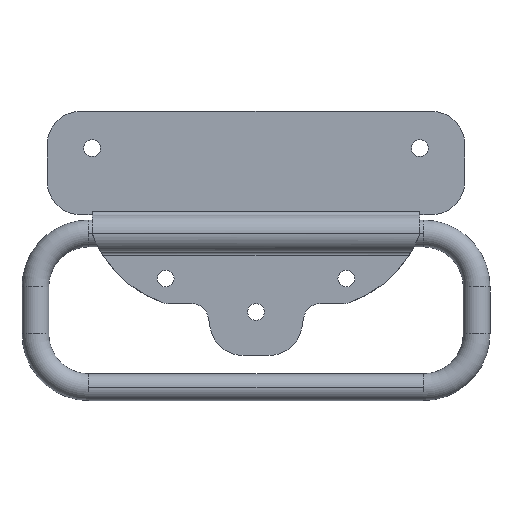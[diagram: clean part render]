
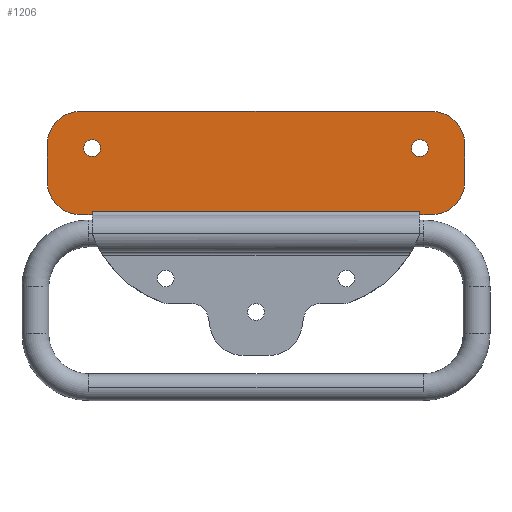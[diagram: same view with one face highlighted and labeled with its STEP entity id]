
A CAD part, left-side view. The second image highlights one B-rep face of the part: STEP entity #1206.
In plain terms, the highlighted planar face has unit normal (-1, 0, 0).
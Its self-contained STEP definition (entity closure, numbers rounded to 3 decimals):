
#874=CARTESIAN_POINT('',(0.,-100.5,0.));
#875=VERTEX_POINT('',#874);
#884=CARTESIAN_POINT('',(0.,-95.5,0.));
#885=VERTEX_POINT('',#884);
#886=CARTESIAN_POINT('',(0.,-98.0,0.));
#887=DIRECTION('',(1.0,0.0,0.0));
#888=DIRECTION('',(0.0,-1.0,0.0));
#889=AXIS2_PLACEMENT_3D('',#886,#887,#888);
#890=CIRCLE('',#889,2.5);
#891=EDGE_CURVE('',#885,#875,#890,.T.);
#916=CARTESIAN_POINT('',(0.0,-2.5,0.0));
#917=VERTEX_POINT('',#916);
#926=CARTESIAN_POINT('',(0.,2.5,0.));
#927=VERTEX_POINT('',#926);
#928=CARTESIAN_POINT('',(0.0,0.0,0.0));
#929=DIRECTION('',(1.0,0.0,0.0));
#930=DIRECTION('',(0.0,-1.0,0.0));
#931=AXIS2_PLACEMENT_3D('',#928,#929,#930);
#932=CIRCLE('',#931,2.5);
#933=EDGE_CURVE('',#927,#917,#932,.T.);
#1079=CARTESIAN_POINT('',(0.,-112.0,11.));
#1080=DIRECTION('',(-1.0,0.0,0.0));
#1081=DIRECTION('',(0.0,0.0,1.0));
#1082=AXIS2_PLACEMENT_3D('',#1079,#1080,#1081);
#1083=PLANE('',#1082);
#1084=CARTESIAN_POINT('',(0.,13.5,-9.9));
#1085=VERTEX_POINT('',#1084);
#1086=CARTESIAN_POINT('',(0.0,3.5,-19.9));
#1087=VERTEX_POINT('',#1086);
#1088=CARTESIAN_POINT('',(0.0,3.5,-9.9));
#1089=DIRECTION('',(-1.0,0.0,0.0));
#1090=DIRECTION('',(0.0,-1.0,0.0));
#1091=AXIS2_PLACEMENT_3D('',#1088,#1089,#1090);
#1092=CIRCLE('',#1091,10.0);
#1093=EDGE_CURVE('',#1085,#1087,#1092,.T.);
#1094=ORIENTED_EDGE('',*,*,#1093,.T.);
#1095=CARTESIAN_POINT('',(0.0,0.,-19.9));
#1096=VERTEX_POINT('',#1095);
#1097=CARTESIAN_POINT('',(0.0,0.,-19.9));
#1098=DIRECTION('',(0.0,1.0,0.0));
#1099=VECTOR('',#1098,3.5);
#1100=LINE('',#1097,#1099);
#1101=EDGE_CURVE('',#1096,#1087,#1100,.T.);
#1102=ORIENTED_EDGE('',*,*,#1101,.F.);
#1103=CARTESIAN_POINT('',(0.0,0.,-19.0));
#1104=VERTEX_POINT('',#1103);
#1105=CARTESIAN_POINT('',(0.0,0.,-19.0));
#1106=DIRECTION('',(0.0,0.0,-1.0));
#1107=VECTOR('',#1106,0.9);
#1108=LINE('',#1105,#1107);
#1109=EDGE_CURVE('',#1104,#1096,#1108,.T.);
#1110=ORIENTED_EDGE('',*,*,#1109,.F.);
#1111=CARTESIAN_POINT('',(0.,-98.0,-19.));
#1112=VERTEX_POINT('',#1111);
#1113=CARTESIAN_POINT('',(0.,-98.0,-19.));
#1114=DIRECTION('',(0.0,1.0,0.0));
#1115=VECTOR('',#1114,98.0);
#1116=LINE('',#1113,#1115);
#1117=EDGE_CURVE('',#1112,#1104,#1116,.T.);
#1118=ORIENTED_EDGE('',*,*,#1117,.F.);
#1119=CARTESIAN_POINT('',(0.,-98.0,-19.9));
#1120=VERTEX_POINT('',#1119);
#1121=CARTESIAN_POINT('',(0.,-98.0,-19.9));
#1122=DIRECTION('',(0.0,0.0,1.0));
#1123=VECTOR('',#1122,0.9);
#1124=LINE('',#1121,#1123);
#1125=EDGE_CURVE('',#1120,#1112,#1124,.T.);
#1126=ORIENTED_EDGE('',*,*,#1125,.F.);
#1127=CARTESIAN_POINT('',(0.,-101.5,-19.9));
#1128=VERTEX_POINT('',#1127);
#1129=CARTESIAN_POINT('',(0.,-101.5,-19.9));
#1130=DIRECTION('',(0.0,1.0,0.0));
#1131=VECTOR('',#1130,3.5);
#1132=LINE('',#1129,#1131);
#1133=EDGE_CURVE('',#1128,#1120,#1132,.T.);
#1134=ORIENTED_EDGE('',*,*,#1133,.F.);
#1135=CARTESIAN_POINT('',(0.,-111.5,-9.9));
#1136=VERTEX_POINT('',#1135);
#1137=CARTESIAN_POINT('',(0.,-101.5,-9.9));
#1138=DIRECTION('',(-1.0,0.0,0.0));
#1139=DIRECTION('',(0.0,1.0,0.0));
#1140=AXIS2_PLACEMENT_3D('',#1137,#1138,#1139);
#1141=CIRCLE('',#1140,10.0);
#1142=EDGE_CURVE('',#1128,#1136,#1141,.T.);
#1143=ORIENTED_EDGE('',*,*,#1142,.T.);
#1144=CARTESIAN_POINT('',(0.,-111.5,1.));
#1145=VERTEX_POINT('',#1144);
#1146=CARTESIAN_POINT('',(0.,-111.5,-9.9));
#1147=DIRECTION('',(0.0,0.0,1.0));
#1148=VECTOR('',#1147,10.9);
#1149=LINE('',#1146,#1148);
#1150=EDGE_CURVE('',#1136,#1145,#1149,.T.);
#1151=ORIENTED_EDGE('',*,*,#1150,.T.);
#1152=CARTESIAN_POINT('',(0.,-101.5,11.));
#1153=VERTEX_POINT('',#1152);
#1154=CARTESIAN_POINT('',(0.,-101.5,1.));
#1155=DIRECTION('',(-1.0,0.0,0.0));
#1156=DIRECTION('',(0.0,1.0,0.0));
#1157=AXIS2_PLACEMENT_3D('',#1154,#1155,#1156);
#1158=CIRCLE('',#1157,10.0);
#1159=EDGE_CURVE('',#1145,#1153,#1158,.T.);
#1160=ORIENTED_EDGE('',*,*,#1159,.T.);
#1161=CARTESIAN_POINT('',(0.,3.5,11.));
#1162=VERTEX_POINT('',#1161);
#1163=CARTESIAN_POINT('',(0.,-101.5,11.));
#1164=DIRECTION('',(0.0,1.0,0.0));
#1165=VECTOR('',#1164,105.);
#1166=LINE('',#1163,#1165);
#1167=EDGE_CURVE('',#1153,#1162,#1166,.T.);
#1168=ORIENTED_EDGE('',*,*,#1167,.T.);
#1169=CARTESIAN_POINT('',(0.,13.5,1.));
#1170=VERTEX_POINT('',#1169);
#1171=CARTESIAN_POINT('',(0.0,3.5,1.));
#1172=DIRECTION('',(-1.0,0.0,0.0));
#1173=DIRECTION('',(0.0,-1.0,0.0));
#1174=AXIS2_PLACEMENT_3D('',#1171,#1172,#1173);
#1175=CIRCLE('',#1174,10.0);
#1176=EDGE_CURVE('',#1162,#1170,#1175,.T.);
#1177=ORIENTED_EDGE('',*,*,#1176,.T.);
#1178=CARTESIAN_POINT('',(0.,13.5,1.));
#1179=DIRECTION('',(0.0,0.0,-1.0));
#1180=VECTOR('',#1179,10.9);
#1181=LINE('',#1178,#1180);
#1182=EDGE_CURVE('',#1170,#1085,#1181,.T.);
#1183=ORIENTED_EDGE('',*,*,#1182,.T.);
#1184=EDGE_LOOP('',(#1094,#1102,#1110,#1118,#1126,#1134,#1143,#1151,#1160,#1168,#1177,#1183));
#1185=FACE_OUTER_BOUND('',#1184,.T.);
#1186=CARTESIAN_POINT('',(0.0,0.0,0.0));
#1187=DIRECTION('',(1.0,0.0,0.0));
#1188=DIRECTION('',(0.0,-1.0,0.0));
#1189=AXIS2_PLACEMENT_3D('',#1186,#1187,#1188);
#1190=CIRCLE('',#1189,2.5);
#1191=EDGE_CURVE('',#917,#927,#1190,.T.);
#1192=ORIENTED_EDGE('',*,*,#1191,.T.);
#1193=ORIENTED_EDGE('',*,*,#933,.T.);
#1194=EDGE_LOOP('',(#1192,#1193));
#1195=FACE_BOUND('',#1194,.T.);
#1196=CARTESIAN_POINT('',(0.,-98.0,0.));
#1197=DIRECTION('',(1.0,0.0,0.0));
#1198=DIRECTION('',(0.0,-1.0,0.0));
#1199=AXIS2_PLACEMENT_3D('',#1196,#1197,#1198);
#1200=CIRCLE('',#1199,2.5);
#1201=EDGE_CURVE('',#875,#885,#1200,.T.);
#1202=ORIENTED_EDGE('',*,*,#1201,.T.);
#1203=ORIENTED_EDGE('',*,*,#891,.T.);
#1204=EDGE_LOOP('',(#1202,#1203));
#1205=FACE_BOUND('',#1204,.T.);
#1206=ADVANCED_FACE('',(#1185,#1195,#1205),#1083,.T.);
